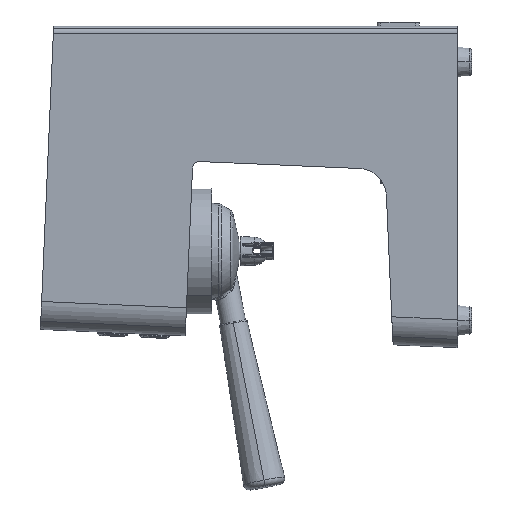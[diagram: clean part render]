
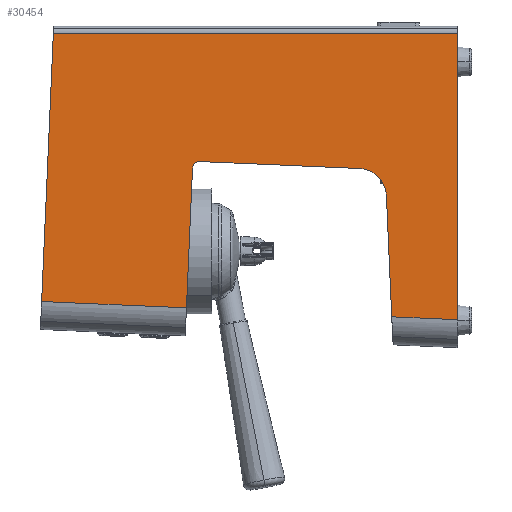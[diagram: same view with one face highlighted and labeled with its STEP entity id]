
A CAD part, left-side view. The second image highlights one B-rep face of the part: STEP entity #30454.
In plain terms, the highlighted planar face has unit normal (-1, 0, 0).
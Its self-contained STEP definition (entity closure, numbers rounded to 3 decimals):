
#1525 = CIRCLE ( 'NONE', #155808, 5. ) ;
#5577 = DIRECTION ( 'NONE',  ( 0., 0.999, 0.044 ) ) ;
#6979 = DIRECTION ( 'NONE',  ( 0., 0.044, -0.999 ) ) ;
#11081 = CARTESIAN_POINT ( 'NONE',  ( 1.542, 230.478, -225.674 ) ) ;
#11560 = AXIS2_PLACEMENT_3D ( 'NONE', #49164, #189435, #206333 ) ;
#12895 = EDGE_CURVE ( 'NONE', #84558, #108573, #50258, .T. ) ;
#13048 = EDGE_CURVE ( 'NONE', #135590, #25132, #42206, .T. ) ;
#14671 = ORIENTED_EDGE ( 'NONE', *, *, #137419, .T. ) ;
#15371 = CARTESIAN_POINT ( 'NONE',  ( 1.542, 271.025, -133.847 ) ) ;
#17798 = CARTESIAN_POINT ( 'NONE',  ( 1.542, 240.053, -330.356 ) ) ;
#24382 = VECTOR ( 'NONE', #32268, 1000. ) ;
#25132 = VERTEX_POINT ( 'NONE', #43150 ) ;
#27466 = DIRECTION ( 'NONE',  ( 0., -0.044, 0.999 ) ) ;
#29635 = DIRECTION ( 'NONE',  ( 0., 0., 1. ) ) ;
#30454 = ADVANCED_FACE ( 'NONE', ( #48068 ), #99693, .T. ) ;
#31822 = VERTEX_POINT ( 'NONE', #128453 ) ;
#31846 = CARTESIAN_POINT ( 'NONE',  ( 1.542, 46.025, -128.847 ) ) ;
#32268 = DIRECTION ( 'NONE',  ( 0., -1., 0. ) ) ;
#35501 = CARTESIAN_POINT ( 'NONE',  ( 1.542, 343.655, -325.833 ) ) ;
#38890 = ORIENTED_EDGE ( 'NONE', *, *, #12895, .F. ) ;
#41588 = CARTESIAN_POINT ( 'NONE',  ( 1.542, 335.272, -133.847 ) ) ;
#42206 = LINE ( 'NONE', #217395, #211021 ) ;
#42360 = CARTESIAN_POINT ( 'NONE',  ( 1.542, 93.18, -336.769 ) ) ;
#43150 = CARTESIAN_POINT ( 'NONE',  ( 1.542, 235.691, -230.451 ) ) ;
#48068 = FACE_OUTER_BOUND ( 'NONE', #160523, .T. ) ;
#49164 = CARTESIAN_POINT ( 'NONE',  ( 1.542, 196.025, -243.847 ) ) ;
#50258 = LINE ( 'NONE', #15371, #24382 ) ;
#51325 = EDGE_CURVE ( 'NONE', #153938, #109886, #192575, .T. ) ;
#58442 = CARTESIAN_POINT ( 'NONE',  ( 1.542, 199.879, -332.11 ) ) ;
#60673 = LINE ( 'NONE', #58442, #212347 ) ;
#60835 = EDGE_CURVE ( 'NONE', #31822, #153938, #129556, .T. ) ;
#76918 = CARTESIAN_POINT ( 'NONE',  ( 1.542, 116.959, -250.65 ) ) ;
#84558 = VERTEX_POINT ( 'NONE', #41588 ) ;
#86702 = CARTESIAN_POINT ( 'NONE',  ( 1.542, 46.025, -338.828 ) ) ;
#89138 = CARTESIAN_POINT ( 'NONE',  ( 1.542, 339.801, -237.569 ) ) ;
#91616 = EDGE_CURVE ( 'NONE', #135590, #129051, #197150, .T. ) ;
#94006 = LINE ( 'NONE', #31846, #155939 ) ;
#95408 = ORIENTED_EDGE ( 'NONE', *, *, #60835, .T. ) ;
#96440 = VECTOR ( 'NONE', #162194, 1000. ) ;
#99693 = PLANE ( 'NONE',  #11560 ) ;
#107484 = CARTESIAN_POINT ( 'NONE',  ( 1.542, 230.696, -230.67 ) ) ;
#108040 = ORIENTED_EDGE ( 'NONE', *, *, #51325, .T. ) ;
#108504 = EDGE_CURVE ( 'NONE', #145060, #109886, #60673, .T. ) ;
#108573 = VERTEX_POINT ( 'NONE', #132457 ) ;
#109886 = VERTEX_POINT ( 'NONE', #42360 ) ;
#110613 = DIRECTION ( 'NONE',  ( 1., 0., 0. ) ) ;
#113467 = EDGE_CURVE ( 'NONE', #25132, #121850, #1525, .T. ) ;
#121850 = VERTEX_POINT ( 'NONE', #11081 ) ;
#126091 = LINE ( 'NONE', #89138, #141969 ) ;
#126376 = DIRECTION ( 'NONE',  ( 0., 0.999, 0.044 ) ) ;
#128453 = CARTESIAN_POINT ( 'NONE',  ( 1.542, 116.087, -230.669 ) ) ;
#129051 = VERTEX_POINT ( 'NONE', #35501 ) ;
#129556 = CIRCLE ( 'NONE', #136816, 20. ) ;
#130070 = CARTESIAN_POINT ( 'NONE',  ( 1.542, 96.978, -249.777 ) ) ;
#132457 = CARTESIAN_POINT ( 'NONE',  ( 1.542, 46.025, -133.847 ) ) ;
#133939 = EDGE_CURVE ( 'NONE', #145060, #108573, #94006, .T. ) ;
#135590 = VERTEX_POINT ( 'NONE', #17798 ) ;
#136816 = AXIS2_PLACEMENT_3D ( 'NONE', #76918, #110613, #27466 ) ;
#137419 = EDGE_CURVE ( 'NONE', #84558, #129051, #126091, .T. ) ;
#140006 = EDGE_CURVE ( 'NONE', #121850, #31822, #199237, .T. ) ;
#141969 = VECTOR ( 'NONE', #6979, 1000. ) ;
#142521 = VECTOR ( 'NONE', #126376, 1000. ) ;
#144190 = DIRECTION ( 'NONE',  ( 0., -0.044, -0.999 ) ) ;
#145060 = VERTEX_POINT ( 'NONE', #86702 ) ;
#145465 = DIRECTION ( 'NONE',  ( 0., -0.044, 0.999 ) ) ;
#146575 = ORIENTED_EDGE ( 'NONE', *, *, #133939, .T. ) ;
#153938 = VERTEX_POINT ( 'NONE', #130070 ) ;
#155808 = AXIS2_PLACEMENT_3D ( 'NONE', #107484, #172672, #174885 ) ;
#155939 = VECTOR ( 'NONE', #29635, 1000. ) ;
#160523 = EDGE_LOOP ( 'NONE', ( #14671, #177459, #203336, #178579, #162020, #95408, #108040, #170964, #146575, #38890 ) ) ;
#162020 = ORIENTED_EDGE ( 'NONE', *, *, #140006, .T. ) ;
#162194 = DIRECTION ( 'NONE',  ( 0., -0.999, -0.044 ) ) ;
#164568 = CARTESIAN_POINT ( 'NONE',  ( 1.542, 199.879, -332.11 ) ) ;
#170964 = ORIENTED_EDGE ( 'NONE', *, *, #108504, .F. ) ;
#172672 = DIRECTION ( 'NONE',  ( 1., 0., 0. ) ) ;
#174885 = DIRECTION ( 'NONE',  ( 0., 0.999, 0.044 ) ) ;
#177459 = ORIENTED_EDGE ( 'NONE', *, *, #91616, .F. ) ;
#178579 = ORIENTED_EDGE ( 'NONE', *, *, #113467, .T. ) ;
#189435 = DIRECTION ( 'NONE',  ( -1., 0., 0. ) ) ;
#192575 = LINE ( 'NONE', #197020, #220747 ) ;
#197020 = CARTESIAN_POINT ( 'NONE',  ( 1.542, 95.303, -288.155 ) ) ;
#197150 = LINE ( 'NONE', #164568, #142521 ) ;
#199237 = LINE ( 'NONE', #213880, #96440 ) ;
#203336 = ORIENTED_EDGE ( 'NONE', *, *, #13048, .T. ) ;
#206333 = DIRECTION ( 'NONE',  ( 0., 0., 1. ) ) ;
#211021 = VECTOR ( 'NONE', #145465, 1000. ) ;
#212347 = VECTOR ( 'NONE', #5577, 1000. ) ;
#213880 = CARTESIAN_POINT ( 'NONE',  ( 1.542, 155.693, -228.94 ) ) ;
#217395 = CARTESIAN_POINT ( 'NONE',  ( 1.542, 235.945, -236.272 ) ) ;
#220747 = VECTOR ( 'NONE', #144190, 1000. ) ;
